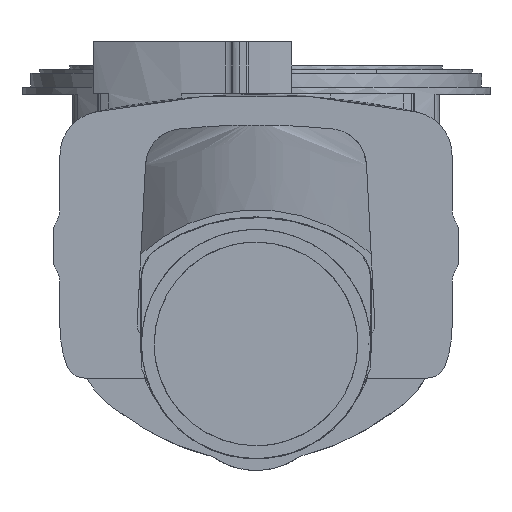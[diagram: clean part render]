
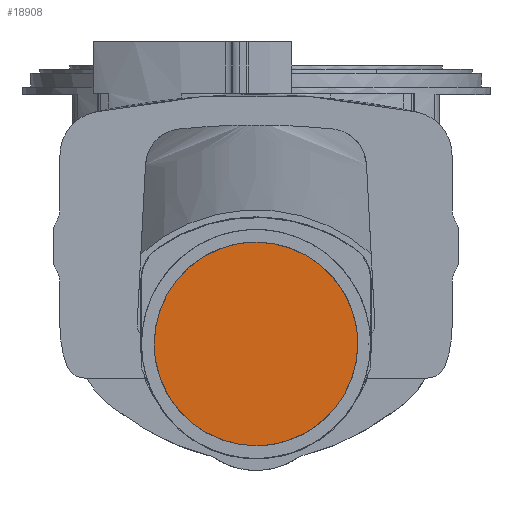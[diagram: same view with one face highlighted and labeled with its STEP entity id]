
A CAD part, front view. The second image highlights one B-rep face of the part: STEP entity #18908.
In plain terms, the highlighted planar face has unit normal (0, -1, 0).
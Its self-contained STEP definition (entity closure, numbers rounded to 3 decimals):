
#1942 = CARTESIAN_POINT ( 'NONE',  ( -1300., -1439., -80.465 ) ) ;
#1943 = CARTESIAN_POINT ( 'NONE',  ( -1294.734, -1439., -80.465 ) ) ;
#1944 = CARTESIAN_POINT ( 'NONE',  ( -1289.467, -1439., -79.947 ) ) ;
#1945 = CARTESIAN_POINT ( 'NONE',  ( -1279.137, -1439., -77.892 ) ) ;
#1946 = CARTESIAN_POINT ( 'NONE',  ( -1274.073, -1439., -76.356 ) ) ;
#1947 = CARTESIAN_POINT ( 'NONE',  ( -1264.342, -1439., -72.325 ) ) ;
#1948 = CARTESIAN_POINT ( 'NONE',  ( -1259.675, -1439., -69.83 ) ) ;
#1949 = CARTESIAN_POINT ( 'NONE',  ( -1250.917, -1439., -63.979 ) ) ;
#1950 = CARTESIAN_POINT ( 'NONE',  ( -1246.826, -1439., -60.622 ) ) ;
#1951 = CARTESIAN_POINT ( 'NONE',  ( -1239.378, -1439., -53.174 ) ) ;
#1952 = CARTESIAN_POINT ( 'NONE',  ( -1236.021, -1439., -49.083 ) ) ;
#1953 = CARTESIAN_POINT ( 'NONE',  ( -1230.17, -1439., -40.325 ) ) ;
#1954 = CARTESIAN_POINT ( 'NONE',  ( -1227.675, -1439., -35.658 ) ) ;
#1955 = CARTESIAN_POINT ( 'NONE',  ( -1223.644, -1439., -25.927 ) ) ;
#1956 = CARTESIAN_POINT ( 'NONE',  ( -1222.108, -1439., -20.863 ) ) ;
#1957 = CARTESIAN_POINT ( 'NONE',  ( -1220.053, -1439., -10.533 ) ) ;
#1958 = CARTESIAN_POINT ( 'NONE',  ( -1219.535, -1439., -5.266 ) ) ;
#1959 = CARTESIAN_POINT ( 'NONE',  ( -1219.535, -1439., 0. ) ) ;
#1970 = B_SPLINE_CURVE_WITH_KNOTS ( 'NONE', 3,
 ( #1959, #1958, #1957, #1956, #1955, #1954, #1953, #1952, #1951, #1950, #1949, #1948, #1947, #1946, #1945, #1944, #1943, #1942 ),
 .UNSPECIFIED., .F., .F.,
 ( 4, 2, 2, 2, 2, 2, 2, 2, 4 ),
 ( 0.5, 0.563, 0.625, 0.687, 0.75, 0.813, 0.875, 0.938, 1. ),
 .UNSPECIFIED. ) ;
#1971 = CARTESIAN_POINT ( 'NONE',  ( -1300., -1439., -80.465 ) ) ;
#2044 = CARTESIAN_POINT ( 'NONE',  ( -1380.465, -1439., 0. ) ) ;
#2045 = CARTESIAN_POINT ( 'NONE',  ( -1380.465, -1439., -5.266 ) ) ;
#2046 = CARTESIAN_POINT ( 'NONE',  ( -1379.947, -1439., -10.533 ) ) ;
#2047 = CARTESIAN_POINT ( 'NONE',  ( -1377.892, -1439., -20.863 ) ) ;
#2048 = CARTESIAN_POINT ( 'NONE',  ( -1376.356, -1439., -25.927 ) ) ;
#2049 = CARTESIAN_POINT ( 'NONE',  ( -1372.325, -1439., -35.658 ) ) ;
#2050 = CARTESIAN_POINT ( 'NONE',  ( -1369.83, -1439., -40.325 ) ) ;
#2051 = CARTESIAN_POINT ( 'NONE',  ( -1363.979, -1439., -49.083 ) ) ;
#2052 = CARTESIAN_POINT ( 'NONE',  ( -1360.622, -1439., -53.174 ) ) ;
#2053 = CARTESIAN_POINT ( 'NONE',  ( -1353.174, -1439., -60.622 ) ) ;
#2054 = CARTESIAN_POINT ( 'NONE',  ( -1349.083, -1439., -63.979 ) ) ;
#2055 = CARTESIAN_POINT ( 'NONE',  ( -1340.325, -1439., -69.83 ) ) ;
#2056 = CARTESIAN_POINT ( 'NONE',  ( -1335.658, -1439., -72.325 ) ) ;
#2057 = CARTESIAN_POINT ( 'NONE',  ( -1325.927, -1439., -76.356 ) ) ;
#2058 = CARTESIAN_POINT ( 'NONE',  ( -1320.863, -1439., -77.892 ) ) ;
#2059 = CARTESIAN_POINT ( 'NONE',  ( -1310.533, -1439., -79.947 ) ) ;
#2060 = CARTESIAN_POINT ( 'NONE',  ( -1305.266, -1439., -80.465 ) ) ;
#2069 = CARTESIAN_POINT ( 'NONE',  ( -1300., -1439., -80.465 ) ) ;
#2071 = B_SPLINE_CURVE_WITH_KNOTS ( 'NONE', 3,
 ( #2069, #2060, #2059, #2058, #2057, #2056, #2055, #2054, #2053, #2052, #2051, #2050, #2049, #2048, #2047, #2046, #2045, #2044 ),
 .UNSPECIFIED., .F., .F.,
 ( 4, 2, 2, 2, 2, 2, 2, 2, 4 ),
 ( 0., 0.063, 0.125, 0.188, 0.25, 0.313, 0.375, 0.438, 0.5 ),
 .UNSPECIFIED. ) ;
#2073 = FACE_OUTER_BOUND ( 'NONE', #18904, .T. ) ;
#2096 = DIRECTION ( 'NONE',  ( 0., 0., 1. ) ) ;
#2097 = DIRECTION ( 'NONE',  ( 0., 1., 0. ) ) ;
#2098 = CARTESIAN_POINT ( 'NONE',  ( -1300., -1439., -71.75 ) ) ;
#2099 = AXIS2_PLACEMENT_3D ( 'NONE', #2098, #2097, #2096 ) ;
#2100 = PLANE ( 'NONE',  #2099 ) ;
#3437 = CARTESIAN_POINT ( 'NONE',  ( -1219.535, -1439., 0. ) ) ;
#3438 = CARTESIAN_POINT ( 'NONE',  ( -1219.535, -1439., 5.266 ) ) ;
#3439 = CARTESIAN_POINT ( 'NONE',  ( -1220.053, -1439., 10.533 ) ) ;
#3440 = CARTESIAN_POINT ( 'NONE',  ( -1222.108, -1439., 20.863 ) ) ;
#3441 = CARTESIAN_POINT ( 'NONE',  ( -1223.644, -1439., 25.927 ) ) ;
#3442 = CARTESIAN_POINT ( 'NONE',  ( -1227.675, -1439., 35.658 ) ) ;
#3443 = CARTESIAN_POINT ( 'NONE',  ( -1230.17, -1439., 40.325 ) ) ;
#3444 = CARTESIAN_POINT ( 'NONE',  ( -1236.021, -1439., 49.083 ) ) ;
#3445 = CARTESIAN_POINT ( 'NONE',  ( -1239.378, -1439., 53.174 ) ) ;
#3446 = CARTESIAN_POINT ( 'NONE',  ( -1246.826, -1439., 60.622 ) ) ;
#3447 = CARTESIAN_POINT ( 'NONE',  ( -1250.917, -1439., 63.979 ) ) ;
#3448 = CARTESIAN_POINT ( 'NONE',  ( -1259.675, -1439., 69.83 ) ) ;
#3449 = CARTESIAN_POINT ( 'NONE',  ( -1264.342, -1439., 72.325 ) ) ;
#3450 = CARTESIAN_POINT ( 'NONE',  ( -1274.073, -1439., 76.356 ) ) ;
#3451 = CARTESIAN_POINT ( 'NONE',  ( -1279.137, -1439., 77.892 ) ) ;
#3452 = CARTESIAN_POINT ( 'NONE',  ( -1289.467, -1439., 79.947 ) ) ;
#3453 = CARTESIAN_POINT ( 'NONE',  ( -1294.734, -1439., 80.465 ) ) ;
#3461 = CARTESIAN_POINT ( 'NONE',  ( -1300., -1439., 80.465 ) ) ;
#3462 = CARTESIAN_POINT ( 'NONE',  ( -1300., -1439., 80.465 ) ) ;
#3463 = B_SPLINE_CURVE_WITH_KNOTS ( 'NONE', 3,
 ( #3461, #3453, #3452, #3451, #3450, #3449, #3448, #3447, #3446, #3445, #3444, #3443, #3442, #3441, #3440, #3439, #3438, #3437 ),
 .UNSPECIFIED., .F., .F.,
 ( 4, 2, 2, 2, 2, 2, 2, 2, 4 ),
 ( 0., 0.063, 0.125, 0.188, 0.25, 0.313, 0.375, 0.438, 0.5 ),
 .UNSPECIFIED. ) ;
#3464 = CARTESIAN_POINT ( 'NONE',  ( -1219.535, -1439., 0. ) ) ;
#5534 = CARTESIAN_POINT ( 'NONE',  ( -1380.465, -1439., 0. ) ) ;
#15476 = CARTESIAN_POINT ( 'NONE',  ( -1363.979, -1439., 49.083 ) ) ;
#15477 = CARTESIAN_POINT ( 'NONE',  ( -1369.83, -1439., 40.325 ) ) ;
#15478 = CARTESIAN_POINT ( 'NONE',  ( -1372.325, -1439., 35.658 ) ) ;
#15479 = CARTESIAN_POINT ( 'NONE',  ( -1376.356, -1439., 25.927 ) ) ;
#15480 = CARTESIAN_POINT ( 'NONE',  ( -1377.892, -1439., 20.863 ) ) ;
#15481 = CARTESIAN_POINT ( 'NONE',  ( -1379.947, -1439., 10.533 ) ) ;
#15482 = CARTESIAN_POINT ( 'NONE',  ( -1380.465, -1439., 5.266 ) ) ;
#15493 = CARTESIAN_POINT ( 'NONE',  ( -1380.465, -1439., 0. ) ) ;
#15495 = B_SPLINE_CURVE_WITH_KNOTS ( 'NONE', 3,
 ( #15493, #15482, #15481, #15480, #15479, #15478, #15477, #15476, #15543, #15542, #15541, #15540, #15539, #15538, #15537, #15536, #15535, #15534 ),
 .UNSPECIFIED., .F., .F.,
 ( 4, 2, 2, 2, 2, 2, 2, 2, 4 ),
 ( 0.5, 0.563, 0.625, 0.688, 0.75, 0.813, 0.875, 0.938, 1. ),
 .UNSPECIFIED. ) ;
#15534 = CARTESIAN_POINT ( 'NONE',  ( -1300., -1439., 80.465 ) ) ;
#15535 = CARTESIAN_POINT ( 'NONE',  ( -1305.266, -1439., 80.465 ) ) ;
#15536 = CARTESIAN_POINT ( 'NONE',  ( -1310.533, -1439., 79.947 ) ) ;
#15537 = CARTESIAN_POINT ( 'NONE',  ( -1320.863, -1439., 77.892 ) ) ;
#15538 = CARTESIAN_POINT ( 'NONE',  ( -1325.927, -1439., 76.356 ) ) ;
#15539 = CARTESIAN_POINT ( 'NONE',  ( -1335.658, -1439., 72.325 ) ) ;
#15540 = CARTESIAN_POINT ( 'NONE',  ( -1340.325, -1439., 69.83 ) ) ;
#15541 = CARTESIAN_POINT ( 'NONE',  ( -1349.083, -1439., 63.979 ) ) ;
#15542 = CARTESIAN_POINT ( 'NONE',  ( -1353.174, -1439., 60.622 ) ) ;
#15543 = CARTESIAN_POINT ( 'NONE',  ( -1360.622, -1439., 53.174 ) ) ;
#18890 = EDGE_CURVE ( 'NONE', #19023, #18891, #1970, .T. ) ;
#18891 = VERTEX_POINT ( 'NONE', #1971 ) ;
#18897 = ORIENTED_EDGE ( 'NONE', *, *, #24471, .F. ) ;
#18899 = ORIENTED_EDGE ( 'NONE', *, *, #19021, .F. ) ;
#18901 = EDGE_CURVE ( 'NONE', #18891, #19140, #2071, .T. ) ;
#18902 = ORIENTED_EDGE ( 'NONE', *, *, #18901, .F. ) ;
#18903 = ORIENTED_EDGE ( 'NONE', *, *, #18890, .F. ) ;
#18904 = EDGE_LOOP ( 'NONE', ( #18902, #18903, #18899, #18897 ) ) ;
#18908 = ADVANCED_FACE ( 'NONE', ( #2073 ), #2100, .F. ) ;
#19021 = EDGE_CURVE ( 'NONE', #19022, #19023, #3463, .T. ) ;
#19022 = VERTEX_POINT ( 'NONE', #3462 ) ;
#19023 = VERTEX_POINT ( 'NONE', #3464 ) ;
#19140 = VERTEX_POINT ( 'NONE', #5534 ) ;
#24471 = EDGE_CURVE ( 'NONE', #19140, #19022, #15495, .T. ) ;
